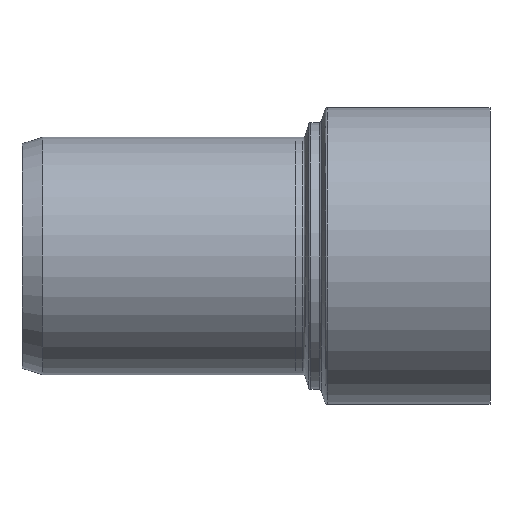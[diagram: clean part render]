
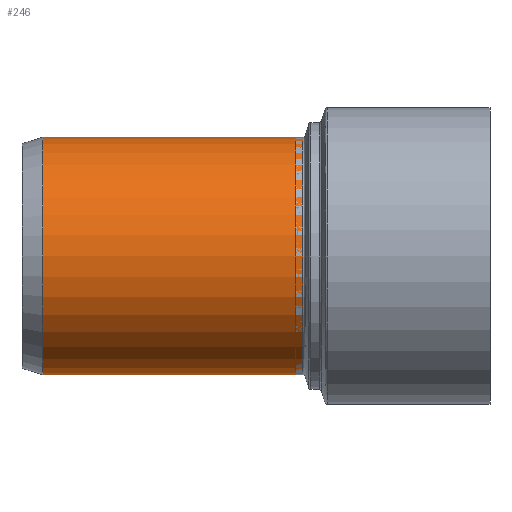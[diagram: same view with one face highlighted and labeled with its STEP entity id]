
A CAD part, front view. The second image highlights one B-rep face of the part: STEP entity #246.
In plain terms, the highlighted cylindrical face has radius 20.075 mm (diameter 40.15 mm), a full revolution.
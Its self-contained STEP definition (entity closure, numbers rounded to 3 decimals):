
#27=CYLINDRICAL_SURFACE($,#274,20.075);
#41=FACE_BOUND($,#83,.T.);
#62=FACE_OUTER_BOUND($,#82,.T.);
#82=EDGE_LOOP($,(#182));
#83=EDGE_LOOP($,(#183));
#119=CIRCLE($,#271,20.075);
#121=CIRCLE($,#275,20.075);
#139=VERTEX_POINT($,#407);
#141=VERTEX_POINT($,#413);
#159=EDGE_CURVE($,#139,#139,#119,.T.);
#161=EDGE_CURVE($,#141,#141,#121,.T.);
#182=ORIENTED_EDGE($,*,*,#161,.T.);
#183=ORIENTED_EDGE($,*,*,#159,.F.);
#246=ADVANCED_FACE($,(#62,#41),#27,.T.);
#271=AXIS2_PLACEMENT_3D($,#408,#319,#320);
#274=AXIS2_PLACEMENT_3D($,#412,#325,#326);
#275=AXIS2_PLACEMENT_3D($,#414,#327,#328);
#319=DIRECTION('center_axis',(0.,0.,-1.));
#320=DIRECTION('ref_axis',(-1.,0.,0.));
#325=DIRECTION('center_axis',(0.,0.,1.));
#326=DIRECTION('ref_axis',(-1.,0.,0.));
#327=DIRECTION('center_axis',(0.,0.,-1.));
#328=DIRECTION('ref_axis',(-1.,0.,0.));
#407=CARTESIAN_POINT('',(20.075,0.,-20.65));
#408=CARTESIAN_POINT('Origin',(0.,0.,-20.65));
#412=CARTESIAN_POINT('Origin',(0.,0.,0.));
#413=CARTESIAN_POINT('',(20.075,0.,24.15));
#414=CARTESIAN_POINT('Origin',(0.,0.,24.15));
